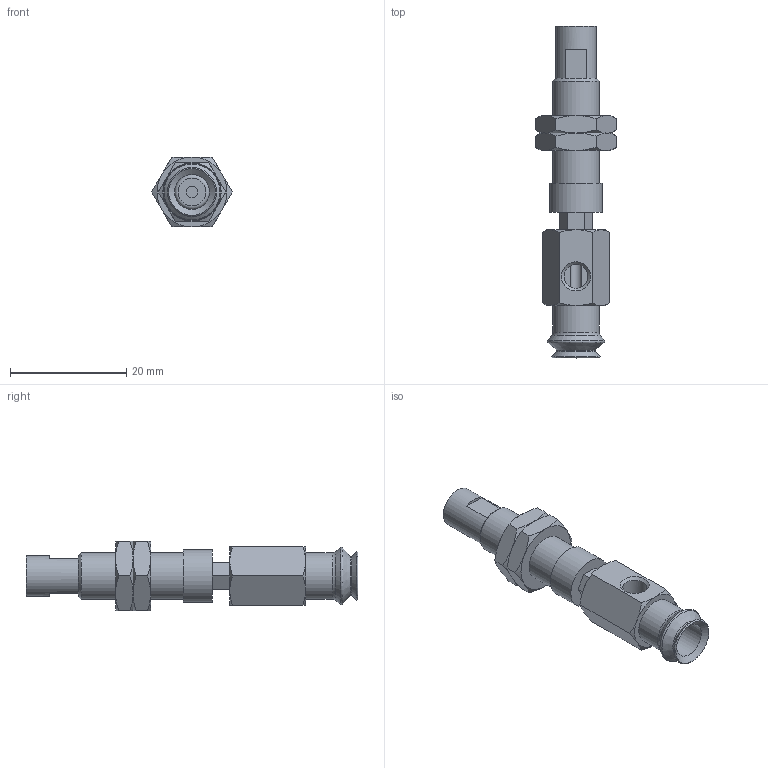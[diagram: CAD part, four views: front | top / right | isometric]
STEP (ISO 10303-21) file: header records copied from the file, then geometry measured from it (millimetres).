
FILE_DESCRIPTION(('STEP AP203'),'1');
FILE_NAME('.stp','2025-06-02T07:35:22',(' '),(' '),'Spatial InterOp 3D',' ',' ');
FILE_SCHEMA(('CONFIG_CONTROL_DESIGN'));
Length unit declared in the file: millimetre
Products named in the file (6): BNABPJYH-8-3-※; CONNECTOR_H-8-3; NAPJH-8-3-NUT; NAPJTH-8-3-FBODY; NAPJTH-8-3-MBODY; BPJG-8-※
Assembly tree (6 placements, depth 2):
  BNABPJYH-8-3-※
    CONNECTOR_H-8-3
    NAPJH-8-3-NUT  x2
    NAPJTH-8-3-FBODY
    NAPJTH-8-3-MBODY
    BPJG-8-※
Bounding box: 13.86 x 57 x 12 mm (x, y, z)
Volume: 3338.6 mm3; surface area: 4079.9 mm2
Topology: 6 solids, 6 shells, 136 faces, 296 edges, 179 vertices
Faces by surface type: plane 61, cone 52, cylinder 14, torus 9
Full cylindrical faces by diameter (mm): 2 x1, 4 x2, 4.134 x2, 5 x1, 6 x2, 7 x1, 7.188 x2, 8 x2, 9 x1
Entity records: 3384 total; most frequent: CARTESIAN_POINT 818, DIRECTION 468, ORIENTED_EDGE 412, EDGE_CURVE 206, AXIS2_PLACEMENT_3D 196, EDGE_LOOP 164, VERTEX_POINT 144, FACE_OUTER_BOUND 135
